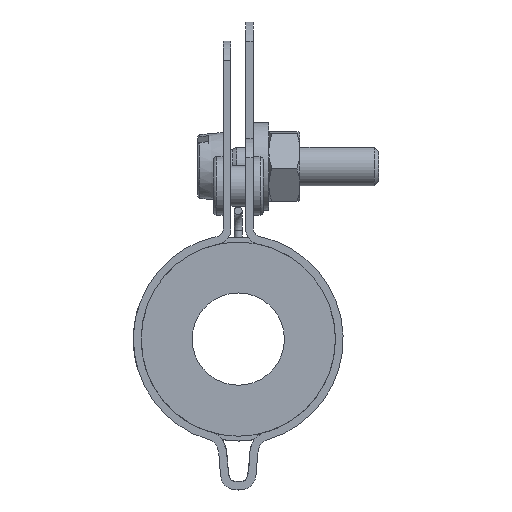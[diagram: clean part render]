
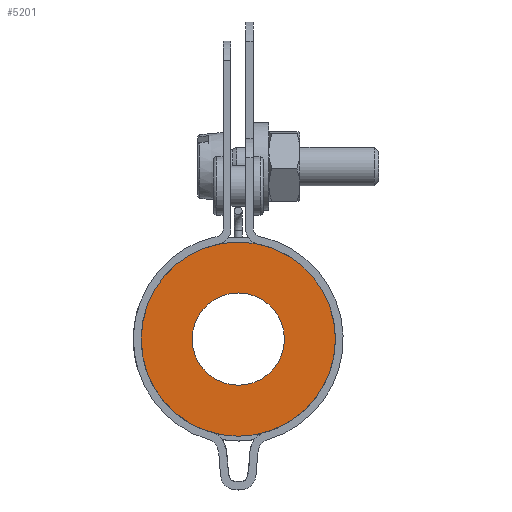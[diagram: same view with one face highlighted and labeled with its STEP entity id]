
A CAD part, front view. The second image highlights one B-rep face of the part: STEP entity #5201.
In plain terms, the highlighted planar face has unit normal (0, -1, 0).
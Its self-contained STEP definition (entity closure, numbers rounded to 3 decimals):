
#979=FACE_BOUND($,#1549,.T.);
#980=FACE_BOUND($,#1550,.T.);
#1549=EDGE_LOOP($,(#4195));
#1550=EDGE_LOOP($,(#4196));
#1849=CIRCLE($,#5635,10.);
#1883=CIRCLE($,#5716,4.75);
#2290=VERTEX_POINT($,#8682);
#2328=VERTEX_POINT($,#8815);
#2937=EDGE_CURVE($,#2290,#2290,#1849,.T.);
#2975=EDGE_CURVE($,#2328,#2328,#1883,.T.);
#4195=ORIENTED_EDGE($,*,*,#2975,.T.);
#4196=ORIENTED_EDGE($,*,*,#2937,.T.);
#4675=PLANE($,#5718);
#5201=ADVANCED_FACE($,(#979,#980),#4675,.T.);
#5635=AXIS2_PLACEMENT_3D($,#8683,#6836,#6837);
#5716=AXIS2_PLACEMENT_3D($,#8816,#7000,#7001);
#5718=AXIS2_PLACEMENT_3D($,#8818,#7004,#7005);
#6836=DIRECTION('center_axis',(0.,-1.,0.));
#6837=DIRECTION('ref_axis',(1.,0.,0.));
#7000=DIRECTION('center_axis',(0.,1.,0.));
#7001=DIRECTION('ref_axis',(1.,0.,0.));
#7004=DIRECTION('center_axis',(0.,-1.,0.));
#7005=DIRECTION('ref_axis',(0.,0.,-1.));
#8682=CARTESIAN_POINT('',(11.645,46.577,19.693));
#8683=CARTESIAN_POINT('Origin',(21.645,46.577,19.693));
#8815=CARTESIAN_POINT('',(16.895,46.577,19.693));
#8816=CARTESIAN_POINT('Origin',(21.645,46.577,19.693));
#8818=CARTESIAN_POINT('Origin',(21.645,46.577,19.693));
